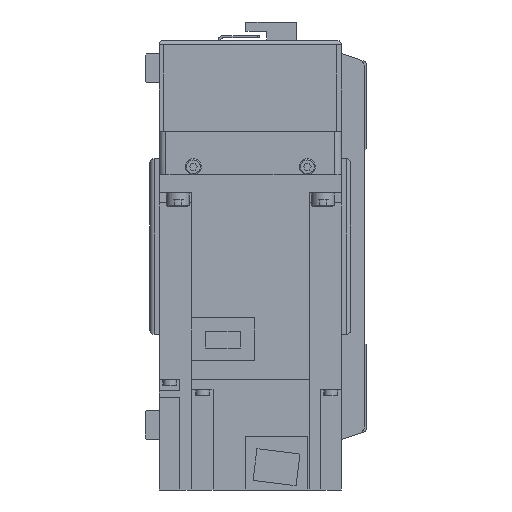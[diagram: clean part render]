
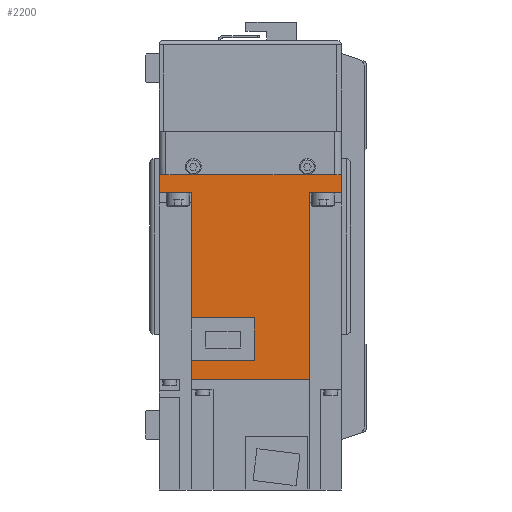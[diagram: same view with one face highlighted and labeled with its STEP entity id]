
A CAD part, left-side view. The second image highlights one B-rep face of the part: STEP entity #2200.
In plain terms, the highlighted planar face has unit normal (-1, 0, 0) as drawn and (1, 0, 0) by its records, which use the part's own axes.
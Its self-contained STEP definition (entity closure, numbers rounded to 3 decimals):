
#2200 = ADVANCED_FACE( '', ( #4861 ), #4862, .F. );
#4861 = FACE_OUTER_BOUND( '', #7983, .T. );
#4862 = PLANE( '', #7984 );
#7983 = EDGE_LOOP( '', ( #14194, #14195, #14196, #14197, #14198, #14199, #14200, #14201, #14202, #14203, #14204, #14205 ) );
#7984 = AXIS2_PLACEMENT_3D( '', #14206, #14207, #14208 );
#14194 = ORIENTED_EDGE( '', *, *, #18597, .F. );
#14195 = ORIENTED_EDGE( '', *, *, #18397, .F. );
#14196 = ORIENTED_EDGE( '', *, *, #20428, .F. );
#14197 = ORIENTED_EDGE( '', *, *, #18059, .T. );
#14198 = ORIENTED_EDGE( '', *, *, #19010, .F. );
#14199 = ORIENTED_EDGE( '', *, *, #18875, .T. );
#14200 = ORIENTED_EDGE( '', *, *, #20429, .T. );
#14201 = ORIENTED_EDGE( '', *, *, #18067, .F. );
#14202 = ORIENTED_EDGE( '', *, *, #20430, .F. );
#14203 = ORIENTED_EDGE( '', *, *, #18399, .F. );
#14204 = ORIENTED_EDGE( '', *, *, #18992, .F. );
#14205 = ORIENTED_EDGE( '', *, *, #20357, .F. );
#14206 = CARTESIAN_POINT( '', ( 40., 89.8, 40. ) );
#14207 = DIRECTION( '', ( -1., 0., 0. ) );
#14208 = DIRECTION( '', ( 0., 0., 1. ) );
#18059 = EDGE_CURVE( '', #21505, #21503, #21506, .T. );
#18067 = EDGE_CURVE( '', #21518, #21520, #21521, .T. );
#18397 = EDGE_CURVE( '', #22112, #22114, #22115, .T. );
#18399 = EDGE_CURVE( '', #22116, #22118, #22119, .T. );
#18597 = EDGE_CURVE( '', #22114, #22461, #22462, .T. );
#18875 = EDGE_CURVE( '', #22940, #22938, #22941, .T. );
#18992 = EDGE_CURVE( '', #23129, #22116, #23130, .T. );
#19010 = EDGE_CURVE( '', #22940, #21503, #23158, .T. );
#20357 = EDGE_CURVE( '', #22461, #23129, #25175, .T. );
#20428 = EDGE_CURVE( '', #21505, #22112, #25264, .T. );
#20429 = EDGE_CURVE( '', #22938, #21520, #25265, .T. );
#20430 = EDGE_CURVE( '', #22118, #21518, #25266, .T. );
#21503 = VERTEX_POINT( '', #26574 );
#21505 = VERTEX_POINT( '', #26577 );
#21506 = LINE( '', #26578, #26579 );
#21518 = VERTEX_POINT( '', #26596 );
#21520 = VERTEX_POINT( '', #26599 );
#21521 = LINE( '', #26600, #26601 );
#22112 = VERTEX_POINT( '', #27432 );
#22114 = VERTEX_POINT( '', #27435 );
#22115 = LINE( '', #27436, #27437 );
#22116 = VERTEX_POINT( '', #27438 );
#22118 = VERTEX_POINT( '', #27441 );
#22119 = LINE( '', #27442, #27443 );
#22461 = VERTEX_POINT( '', #27912 );
#22462 = LINE( '', #27913, #27914 );
#22938 = VERTEX_POINT( '', #28548 );
#22940 = VERTEX_POINT( '', #28551 );
#22941 = LINE( '', #28552, #28553 );
#23129 = VERTEX_POINT( '', #28799 );
#23130 = LINE( '', #28800, #28801 );
#23158 = LINE( '', #28840, #28841 );
#25175 = LINE( '', #31883, #31884 );
#25264 = LINE( '', #32006, #32007 );
#25265 = LINE( '', #32008, #32009 );
#25266 = LINE( '', #32010, #32011 );
#26574 = CARTESIAN_POINT( '', ( 40., 8., 25.95 ) );
#26577 = CARTESIAN_POINT( '', ( 40., 89.8, 25.95 ) );
#26578 = CARTESIAN_POINT( '', ( 40., 158., 25.95 ) );
#26579 = VECTOR( '', #33588, 1000. );
#26596 = CARTESIAN_POINT( '', ( 40., 8., -40. ) );
#26599 = CARTESIAN_POINT( '', ( 40., 0., -40. ) );
#26600 = CARTESIAN_POINT( '', ( 40., 89.8, -40. ) );
#26601 = VECTOR( '', #33595, 1000. );
#27432 = CARTESIAN_POINT( '', ( 40., 89.8, -25.95 ) );
#27435 = CARTESIAN_POINT( '', ( 40., 81.4, -25.95 ) );
#27436 = CARTESIAN_POINT( '', ( 40., 158., -25.95 ) );
#27437 = VECTOR( '', #34058, 1000. );
#27438 = CARTESIAN_POINT( '', ( 40., 62.8, -25.95 ) );
#27441 = CARTESIAN_POINT( '', ( 40., 8., -25.95 ) );
#27442 = CARTESIAN_POINT( '', ( 40., 158., -25.95 ) );
#27443 = VECTOR( '', #34060, 1000. );
#27912 = CARTESIAN_POINT( '', ( 40., 81.4, 1.8 ) );
#27913 = CARTESIAN_POINT( '', ( 40., 81.4, -26. ) );
#27914 = VECTOR( '', #34346, 1000. );
#28548 = CARTESIAN_POINT( '', ( 40., 0., 40. ) );
#28551 = CARTESIAN_POINT( '', ( 40., 8., 40. ) );
#28552 = CARTESIAN_POINT( '', ( 40., 89.8, 40. ) );
#28553 = VECTOR( '', #34738, 1000. );
#28799 = CARTESIAN_POINT( '', ( 40., 62.8, 1.8 ) );
#28800 = CARTESIAN_POINT( '', ( 40., 62.8, 1.8 ) );
#28801 = VECTOR( '', #34887, 1000. );
#28840 = CARTESIAN_POINT( '', ( 40., 8., 40. ) );
#28841 = VECTOR( '', #34908, 1000. );
#31883 = CARTESIAN_POINT( '', ( 40., 81.4, 1.8 ) );
#31884 = VECTOR( '', #36460, 1000. );
#32006 = CARTESIAN_POINT( '', ( 40., 89.8, 40. ) );
#32007 = VECTOR( '', #36533, 1000. );
#32008 = CARTESIAN_POINT( '', ( 40., 0., 40. ) );
#32009 = VECTOR( '', #36534, 1000. );
#32010 = CARTESIAN_POINT( '', ( 40., 8., 40. ) );
#32011 = VECTOR( '', #36535, 1000. );
#33588 = DIRECTION( '', ( 0., -1., 0. ) );
#33595 = DIRECTION( '', ( 0., -1., 0. ) );
#34058 = DIRECTION( '', ( 0., -1., 0. ) );
#34060 = DIRECTION( '', ( 0., -1., 0. ) );
#34346 = DIRECTION( '', ( 0., 0., 1. ) );
#34738 = DIRECTION( '', ( 0., -1., 0. ) );
#34887 = DIRECTION( '', ( 0., 0., -1. ) );
#34908 = DIRECTION( '', ( 0., 0., -1. ) );
#36460 = DIRECTION( '', ( 0., -1., 0. ) );
#36533 = DIRECTION( '', ( 0., 0., -1. ) );
#36534 = DIRECTION( '', ( 0., 0., -1. ) );
#36535 = DIRECTION( '', ( 0., 0., -1. ) );
